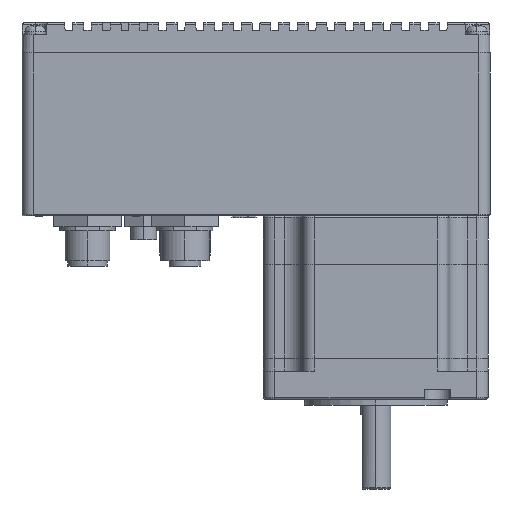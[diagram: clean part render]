
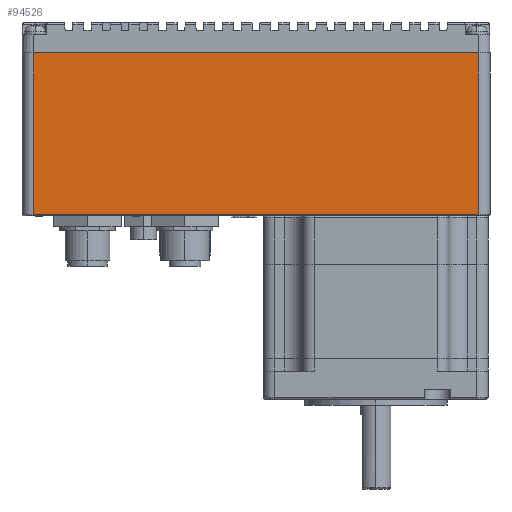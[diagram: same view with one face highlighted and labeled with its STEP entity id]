
A CAD part, left-side view. The second image highlights one B-rep face of the part: STEP entity #94526.
In plain terms, the highlighted planar face has unit normal (-1, 0, 0) as drawn and (1, 0, 0) by its records, which use the part's own axes.
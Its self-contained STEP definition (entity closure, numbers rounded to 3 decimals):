
#75616=DIRECTION('',(0.,1.,0.));
#75617=VECTOR('',#75616,119.);
#75618=CARTESIAN_POINT('',(30.5,-59.5,44.75));
#75619=LINE('',#75618,#75617);
#75623=DIRECTION('',(0.,1.,0.));
#75624=VECTOR('',#75623,119.);
#75625=CARTESIAN_POINT('',(30.5,-59.5,1.5));
#75626=LINE('',#75625,#75624);
#75630=DIRECTION('',(0.,0.,1.));
#75631=VECTOR('',#75630,43.25);
#75632=CARTESIAN_POINT('',(30.5,-59.5,1.5));
#75633=LINE('',#75632,#75631);
#75653=DIRECTION('',(0.,0.,1.));
#75654=VECTOR('',#75653,43.25);
#75655=CARTESIAN_POINT('',(30.5,59.5,1.5));
#75656=LINE('',#75655,#75654);
#76375=CARTESIAN_POINT('',(30.5,-59.5,1.5));
#76376=CARTESIAN_POINT('',(30.5,59.5,1.5));
#76377=VERTEX_POINT('',#76375);
#76378=VERTEX_POINT('',#76376);
#78833=CARTESIAN_POINT('',(30.5,-59.5,44.75));
#78834=VERTEX_POINT('',#78833);
#78837=CARTESIAN_POINT('',(30.5,59.5,44.75));
#78838=VERTEX_POINT('',#78837);
#94513=CARTESIAN_POINT('',(30.5,-59.5,0.));
#94514=DIRECTION('',(1.,0.,0.));
#94515=DIRECTION('',(0.,1.,0.));
#94516=AXIS2_PLACEMENT_3D('',#94513,#94514,#94515);
#94517=PLANE('',#94516);
#94518=ORIENTED_EDGE('',*,*,#94395,.T.);
#94520=ORIENTED_EDGE('',*,*,#94519,.F.);
#94522=ORIENTED_EDGE('',*,*,#94521,.F.);
#94523=ORIENTED_EDGE('',*,*,#94505,.T.);
#94524=EDGE_LOOP('',(#94518,#94520,#94522,#94523));
#94525=FACE_OUTER_BOUND('',#94524,.F.);
#94395=EDGE_CURVE('',#78834,#78838,#75619,.T.);
#94505=EDGE_CURVE('',#76377,#78834,#75633,.T.);
#94519=EDGE_CURVE('',#76378,#78838,#75656,.T.);
#94521=EDGE_CURVE('',#76377,#76378,#75626,.T.);
#94526=ADVANCED_FACE('',(#94525),#94517,.T.);
